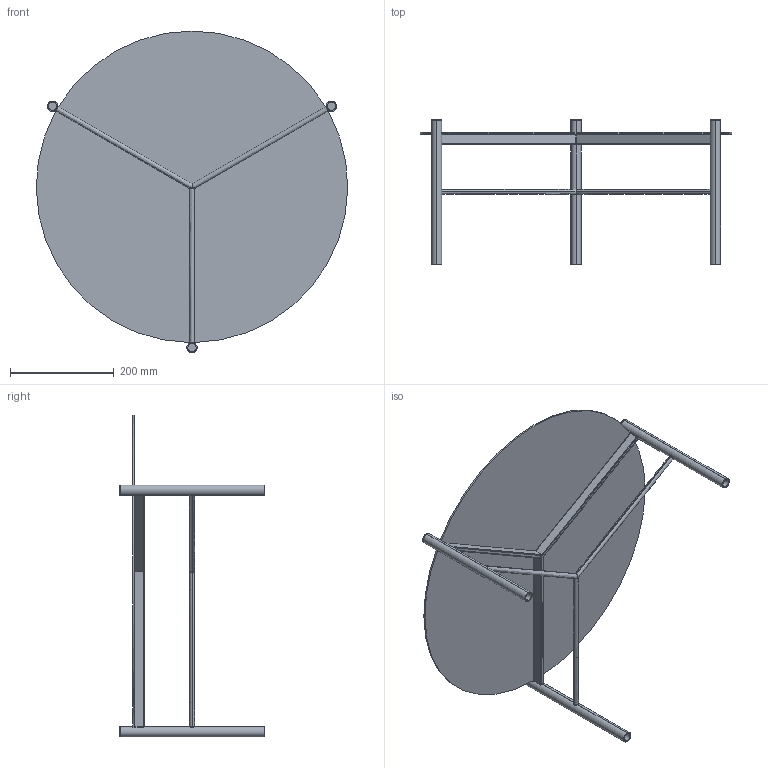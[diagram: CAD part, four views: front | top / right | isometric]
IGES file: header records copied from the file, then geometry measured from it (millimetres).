
Start section: SolidWorks IGES file using analytic representation for surfaces
Global section: file name: Y:\eforma\TECNICO\SOLIDWORKS\E-FORMA\2-TAVOLINI\JACK\02 parts\J101S.IGS; native system: SolidWorks 2022; preprocessor: SolidWorks 2022; author: eforma.tech; date: 240806.132849; units: millimetre
Bounding box: 599.97 x 279 x 620.07 mm (x, y, z)
Volume: 1014801.1 mm3; surface area: 809966.3 mm2
Topology: 13 solids, 13 shells, 121 faces, 287 edges, 190 vertices
Faces by surface type: revolution 71, plane 50
